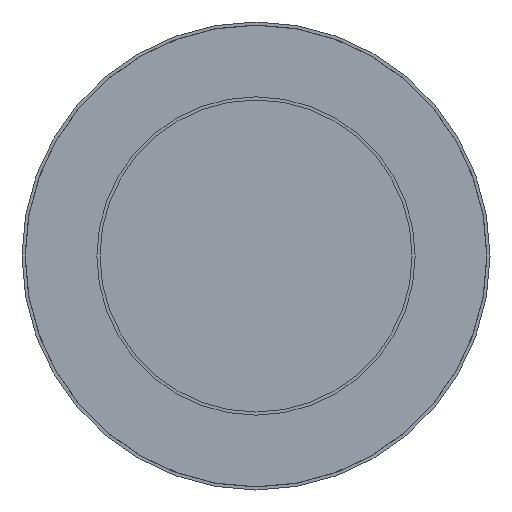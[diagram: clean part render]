
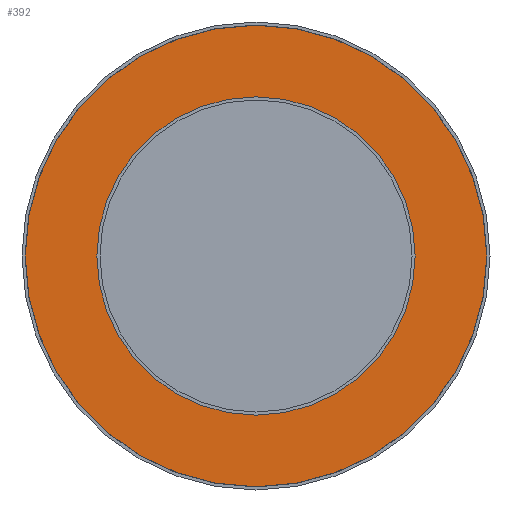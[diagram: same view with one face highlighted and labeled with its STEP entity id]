
A CAD part, front view. The second image highlights one B-rep face of the part: STEP entity #392.
In plain terms, the highlighted planar face has unit normal (0, -1, 0).
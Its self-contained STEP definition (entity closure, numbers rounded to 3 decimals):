
#155=CARTESIAN_POINT('',(0.,0.,0.));
#156=DIRECTION('',(0.,1.,0.));
#157=DIRECTION('',(-1.,0.,0.));
#158=AXIS2_PLACEMENT_3D('',#155,#156,#157);
#164=CARTESIAN_POINT('',(0.,0.,0.));
#165=DIRECTION('',(0.,-1.,0.));
#166=DIRECTION('',(-1.,0.,0.));
#167=AXIS2_PLACEMENT_3D('',#164,#165,#166);
#169=CARTESIAN_POINT('',(0.,0.,0.));
#170=DIRECTION('',(0.,1.,0.));
#171=DIRECTION('',(-1.,0.,0.));
#172=AXIS2_PLACEMENT_3D('',#169,#170,#171);
#174=CARTESIAN_POINT('',(0.,0.,0.));
#175=DIRECTION('',(0.,-1.,0.));
#176=DIRECTION('',(-1.,0.,0.));
#177=AXIS2_PLACEMENT_3D('',#174,#175,#176);
#270=CARTESIAN_POINT('',(-148.,0.,0.));
#272=VERTEX_POINT('',#270);
#273=CARTESIAN_POINT('',(-102.,0.,0.));
#275=VERTEX_POINT('',#273);
#282=CARTESIAN_POINT('',(148.,0.,0.));
#284=VERTEX_POINT('',#282);
#285=CARTESIAN_POINT('',(102.,0.,0.));
#287=VERTEX_POINT('',#285);
#377=CARTESIAN_POINT('',(0.,0.,0.));
#378=DIRECTION('',(0.,-1.,0.));
#379=DIRECTION('',(-1.,0.,0.));
#380=AXIS2_PLACEMENT_3D('',#377,#378,#379);
#381=PLANE('',#380);
#383=ORIENTED_EDGE('',*,*,#382,.T.);
#385=ORIENTED_EDGE('',*,*,#384,.F.);
#386=EDGE_LOOP('',(#383,#385));
#387=FACE_OUTER_BOUND('',#386,.F.);
#388=ORIENTED_EDGE('',*,*,#372,.T.);
#389=ORIENTED_EDGE('',*,*,#356,.F.);
#390=EDGE_LOOP('',(#388,#389));
#391=FACE_BOUND('',#390,.F.);
#159=CIRCLE('',#158,102.);
#168=CIRCLE('',#167,102.);
#173=CIRCLE('',#172,148.);
#178=CIRCLE('',#177,148.);
#356=EDGE_CURVE('',#275,#287,#159,.T.);
#372=EDGE_CURVE('',#275,#287,#168,.T.);
#382=EDGE_CURVE('',#272,#284,#173,.T.);
#384=EDGE_CURVE('',#272,#284,#178,.T.);
#392=ADVANCED_FACE('',(#387,#391),#381,.T.);
